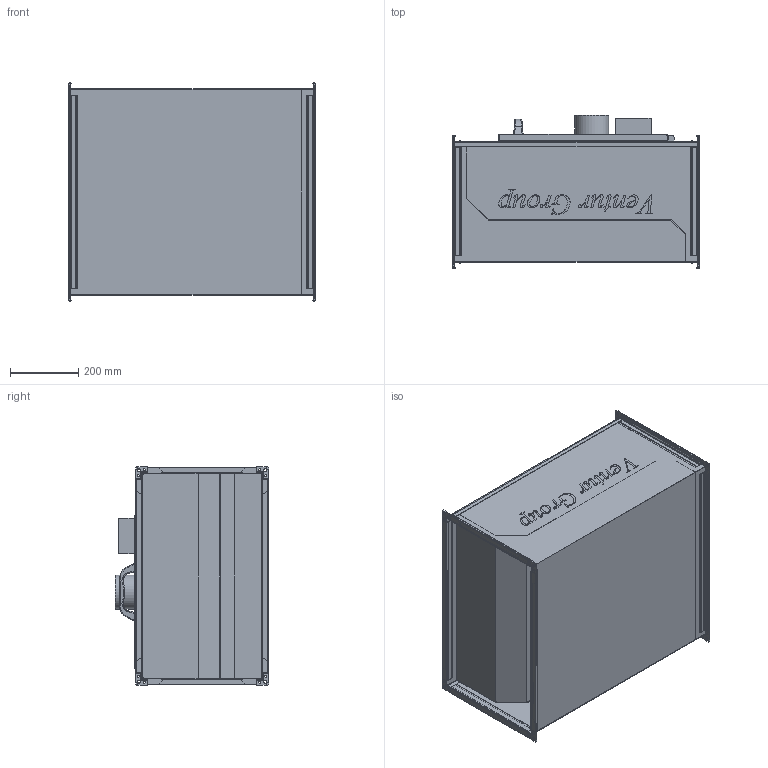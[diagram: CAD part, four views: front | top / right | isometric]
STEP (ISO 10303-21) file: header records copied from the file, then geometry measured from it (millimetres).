
FILE_DESCRIPTION(/* description */ (''),/* implementation_level */ '2;1');
FILE_NAME(/* name */ 'C:\Users\M.Janczarek\Documents\Modele uproszczone\IBF\IBF4_400S 41010110\IBF4_400S 41010110\IBF4_400S 41010110.stp',/* time_stamp */ '2018-03-23T13:04:35+01:00',/* author */ ('M.Janczarek'),/* organization */ (''),/* preprocessor_version */ 'ST-DEVELOPER v16.5',/* originating_system */ 'Autodesk Inventor 2017',/* authorisation */ '');
FILE_SCHEMA (('AUTOMOTIVE_DESIGN { 1 0 10303 214 3 1 1 }'));
Products named in the file (1): IBF4_400S 41010110
Bounding box: 723.6 x 448.79 x 639.97 mm (x, y, z)
Volume: 30348526.8 mm3; surface area: 5035352.8 mm2
Topology: 1 solids, 1 shells, 1728 faces, 4976 edges, 3202 vertices
Faces by surface type: plane 827, cylinder 474, bspline 319, torus 64, cone 28, sphere 16
Full cylindrical faces by diameter (mm): 6 x16, 9 x8, 100 x2, 270 x1, 404 x1
Entity records: 62059 total; most frequent: CARTESIAN_POINT 16598, ORIENTED_EDGE 9880, DIRECTION 8270, EDGE_CURVE 4940, VERTEX_POINT 3210, LINE 3138, VECTOR 3138, AXIS2_PLACEMENT_3D 2566
